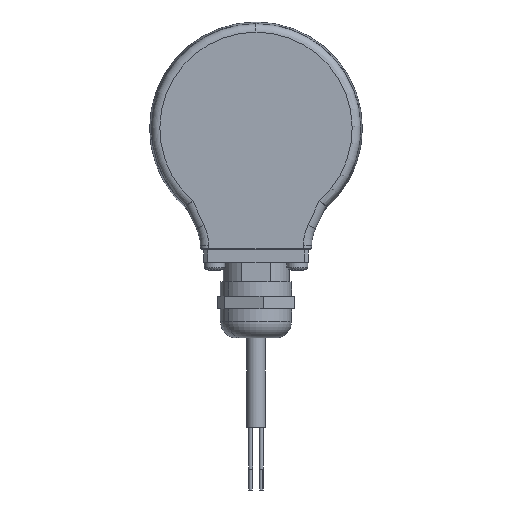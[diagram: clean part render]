
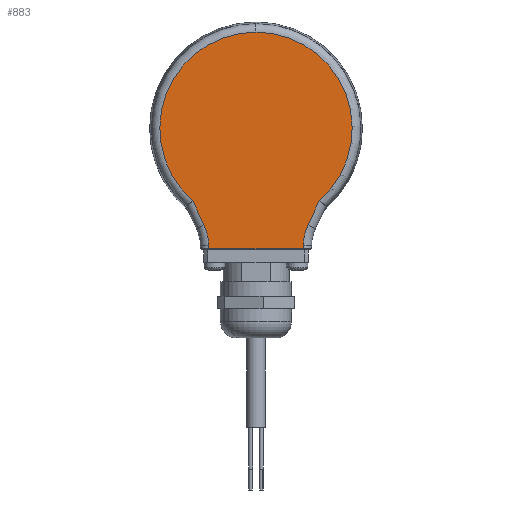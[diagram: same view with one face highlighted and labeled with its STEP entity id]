
A CAD part, left-side view. The second image highlights one B-rep face of the part: STEP entity #883.
In plain terms, the highlighted planar face has unit normal (-1, 0, 0).
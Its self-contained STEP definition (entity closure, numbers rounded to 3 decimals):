
#370 = CARTESIAN_POINT ( 'NONE',  ( -21., -11.255, -28.695 ) ) ;
#857 = ORIENTED_EDGE ( 'NONE', *, *, #859, .T. ) ;
#859 = EDGE_CURVE ( 'NONE', #862, #870, #10641, .T. ) ;
#860 = EDGE_CURVE ( 'NONE', #3150, #862, #10904, .T. ) ;
#862 = VERTEX_POINT ( 'NONE', #10939 ) ;
#865 = ORIENTED_EDGE ( 'NONE', *, *, #977, .T. ) ;
#866 = EDGE_CURVE ( 'NONE', #1016, #907, #10909, .T. ) ;
#870 = VERTEX_POINT ( 'NONE', #10910 ) ;
#874 = EDGE_CURVE ( 'NONE', #972, #1016, #10941, .T. ) ;
#875 = ORIENTED_EDGE ( 'NONE', *, *, #874, .T. ) ;
#883 = ADVANCED_FACE ( 'NONE', ( #11027 ), #17839, .F. ) ;
#906 = ORIENTED_EDGE ( 'NONE', *, *, #943, .T. ) ;
#907 = VERTEX_POINT ( 'NONE', #17922 ) ;
#908 = ORIENTED_EDGE ( 'NONE', *, *, #3385, .T. ) ;
#941 = VERTEX_POINT ( 'NONE', #19033 ) ;
#943 = EDGE_CURVE ( 'NONE', #907, #941, #19024, .T. ) ;
#948 = ORIENTED_EDGE ( 'NONE', *, *, #860, .T. ) ;
#951 = ORIENTED_EDGE ( 'NONE', *, *, #952, .T. ) ;
#952 = EDGE_CURVE ( 'NONE', #976, #3402, #19109, .T. ) ;
#972 = VERTEX_POINT ( 'NONE', #20260 ) ;
#973 = ORIENTED_EDGE ( 'NONE', *, *, #975, .T. ) ;
#975 = EDGE_CURVE ( 'NONE', #870, #972, #20255, .T. ) ;
#976 = VERTEX_POINT ( 'NONE', #20277 ) ;
#977 = EDGE_CURVE ( 'NONE', #941, #976, #20247, .T. ) ;
#1015 = ORIENTED_EDGE ( 'NONE', *, *, #866, .T. ) ;
#1016 = VERTEX_POINT ( 'NONE', #370 ) ;
#1028 = EDGE_LOOP ( 'NONE', ( #973, #875, #1015, #906, #865, #951, #908, #948, #857 ) ) ;
#3150 = VERTEX_POINT ( 'NONE', #6328 ) ;
#3385 = EDGE_CURVE ( 'NONE', #3402, #3150, #7006, .T. ) ;
#3402 = VERTEX_POINT ( 'NONE', #7124 ) ;
#6328 = CARTESIAN_POINT ( 'NONE',  ( -21., 15.091, -17.32 ) ) ;
#7006 = CIRCLE ( 'NONE', #7046, 22.972 ) ;
#7043 = DIRECTION ( 'NONE',  ( 0., 0., 1. ) ) ;
#7044 = DIRECTION ( 'NONE',  ( -1., 0., 0. ) ) ;
#7045 = CARTESIAN_POINT ( 'NONE',  ( -21., 0., 0. ) ) ;
#7046 = AXIS2_PLACEMENT_3D ( 'NONE', #7045, #7044, #7043 ) ;
#7124 = CARTESIAN_POINT ( 'NONE',  ( -21., 0., 22.972 ) ) ;
#10640 = AXIS2_PLACEMENT_3D ( 'NONE', #10644, #10645, #10643 ) ;
#10641 = CIRCLE ( 'NONE', #10640, 12. ) ;
#10643 = DIRECTION ( 'NONE',  ( 0., 0., 1. ) ) ;
#10644 = CARTESIAN_POINT ( 'NONE',  ( -21., 23.266, -28.183 ) ) ;
#10645 = DIRECTION ( 'NONE',  ( 1., 0., 0. ) ) ;
#10892 = DIRECTION ( 'NONE',  ( 0., -0.423, -0.906 ) ) ;
#10893 = VECTOR ( 'NONE', #10892, 1000. ) ;
#10903 = CARTESIAN_POINT ( 'NONE',  ( -21., 12.39, -23.112 ) ) ;
#10904 = LINE ( 'NONE', #10903, #10893 ) ;
#10907 = VECTOR ( 'NONE', #10916, 1000. ) ;
#10908 = CARTESIAN_POINT ( 'NONE',  ( -21., -11.752, -0.205 ) ) ;
#10909 = LINE ( 'NONE', #10908, #10907 ) ;
#10910 = CARTESIAN_POINT ( 'NONE',  ( -21., 11.268, -27.974 ) ) ;
#10915 = DIRECTION ( 'NONE',  ( 0., -1., 0. ) ) ;
#10916 = DIRECTION ( 'NONE',  ( 0., -0.017, 1. ) ) ;
#10933 = VECTOR ( 'NONE', #10915, 1000. ) ;
#10934 = CARTESIAN_POINT ( 'NONE',  ( -21., -11.25, -28.695 ) ) ;
#10939 = CARTESIAN_POINT ( 'NONE',  ( -21., 12.39, -23.112 ) ) ;
#10941 = LINE ( 'NONE', #10934, #10933 ) ;
#11027 = FACE_OUTER_BOUND ( 'NONE', #1028, .T. ) ;
#17804 = DIRECTION ( 'NONE',  ( 0., 0., 1. ) ) ;
#17805 = DIRECTION ( 'NONE',  ( 1., 0., 0. ) ) ;
#17806 = CARTESIAN_POINT ( 'NONE',  ( -21., 0., 0. ) ) ;
#17839 = PLANE ( 'NONE',  #17842 ) ;
#17842 = AXIS2_PLACEMENT_3D ( 'NONE', #17806, #17805, #17804 ) ;
#17922 = CARTESIAN_POINT ( 'NONE',  ( -21., -11.268, -27.974 ) ) ;
#18972 = CARTESIAN_POINT ( 'NONE',  ( -21., -23.266, -28.183 ) ) ;
#19021 = DIRECTION ( 'NONE',  ( 0., 0., 1. ) ) ;
#19022 = DIRECTION ( 'NONE',  ( 1., 0., 0. ) ) ;
#19023 = AXIS2_PLACEMENT_3D ( 'NONE', #18972, #19022, #19021 ) ;
#19024 = CIRCLE ( 'NONE', #19023, 12. ) ;
#19033 = CARTESIAN_POINT ( 'NONE',  ( -21., -12.39, -23.112 ) ) ;
#19108 = AXIS2_PLACEMENT_3D ( 'NONE', #19246, #19245, #19244 ) ;
#19109 = CIRCLE ( 'NONE', #19108, 22.972 ) ;
#19244 = DIRECTION ( 'NONE',  ( 0., 0., 1. ) ) ;
#19245 = DIRECTION ( 'NONE',  ( -1., 0., 0. ) ) ;
#19246 = CARTESIAN_POINT ( 'NONE',  ( -21., 0., 0. ) ) ;
#20245 = VECTOR ( 'NONE', #20274, 1000. ) ;
#20246 = CARTESIAN_POINT ( 'NONE',  ( -21., -14.953, -17.615 ) ) ;
#20247 = LINE ( 'NONE', #20246, #20245 ) ;
#20254 = CARTESIAN_POINT ( 'NONE',  ( -21., 11.752, -0.205 ) ) ;
#20255 = LINE ( 'NONE', #20254, #20279 ) ;
#20260 = CARTESIAN_POINT ( 'NONE',  ( -21., 11.255, -28.695 ) ) ;
#20274 = DIRECTION ( 'NONE',  ( 0., -0.423, 0.906 ) ) ;
#20277 = CARTESIAN_POINT ( 'NONE',  ( -21., -15.091, -17.32 ) ) ;
#20278 = DIRECTION ( 'NONE',  ( 0., -0.017, -1. ) ) ;
#20279 = VECTOR ( 'NONE', #20278, 1000. ) ;
